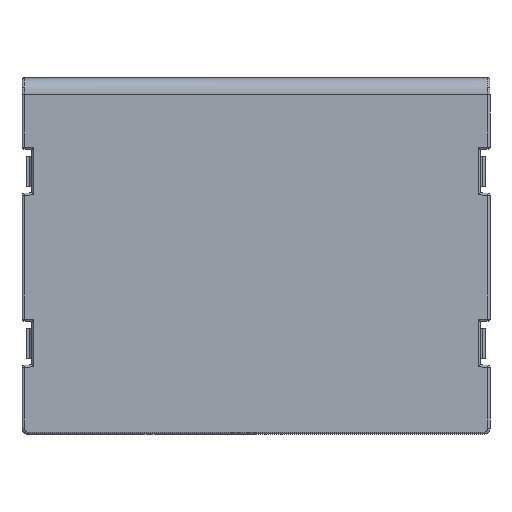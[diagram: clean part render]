
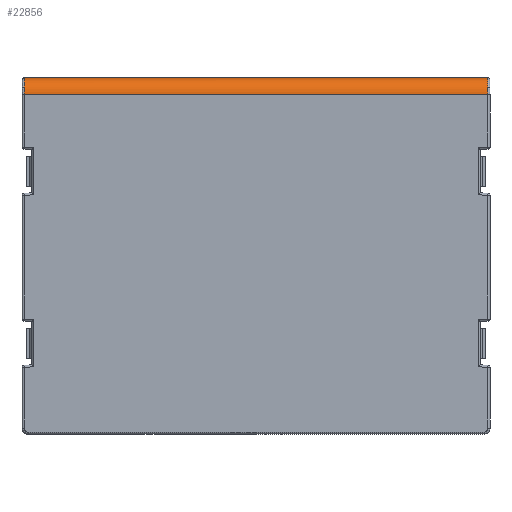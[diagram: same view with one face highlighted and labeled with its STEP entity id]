
A CAD part, front view. The second image highlights one B-rep face of the part: STEP entity #22856.
In plain terms, the highlighted cylindrical face has radius 2.5 mm (diameter 5 mm), a partial arc.
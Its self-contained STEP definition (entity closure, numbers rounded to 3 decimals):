
#38=DIRECTION('',(-1.,0.,0.));
#39=VECTOR('',#38,69.587);
#40=CARTESIAN_POINT('',(36.919,0.,-2.5));
#41=LINE('',#40,#39);
#7545=CARTESIAN_POINT('',(36.913,2.5,
0.));
#7546=CARTESIAN_POINT('',(36.913,2.437,
0.));
#7547=CARTESIAN_POINT('',(36.913,2.31,
-0.005));
#7548=CARTESIAN_POINT('',(36.914,2.127,
-0.026));
#7549=CARTESIAN_POINT('',(36.914,1.945,
-0.06));
#7550=CARTESIAN_POINT('',(36.914,1.766,
-0.108));
#7551=CARTESIAN_POINT('',(36.914,1.591,
-0.169));
#7552=CARTESIAN_POINT('',(36.915,1.421,
-0.242));
#7553=CARTESIAN_POINT('',(36.915,1.257,
-0.328));
#7554=CARTESIAN_POINT('',(36.915,1.099,
-0.426));
#7555=CARTESIAN_POINT('',(36.916,0.95,
-0.536));
#7556=CARTESIAN_POINT('',(36.916,0.809,
-0.656));
#7557=CARTESIAN_POINT('',(36.917,0.677,
-0.786));
#7558=CARTESIAN_POINT('',(36.918,0.555,
-0.926));
#7559=CARTESIAN_POINT('',(36.918,0.444,
-1.074));
#7560=CARTESIAN_POINT('',(36.919,0.344,
-1.23));
#7561=CARTESIAN_POINT('',(36.92,0.285,
-1.339));
#7562=CARTESIAN_POINT('',(36.92,0.258,
-1.394));
#7564=CARTESIAN_POINT('',(36.92,0.258,
-1.394));
#7565=CARTESIAN_POINT('',(36.92,0.234,
-1.442));
#7566=CARTESIAN_POINT('',(36.92,0.19,
-1.539));
#7567=CARTESIAN_POINT('',(36.919,0.134,
-1.688));
#7568=CARTESIAN_POINT('',(36.919,0.087,
-1.841));
#7569=CARTESIAN_POINT('',(36.919,0.05,
-1.995));
#7570=CARTESIAN_POINT('',(36.919,0.023,
-2.152));
#7571=CARTESIAN_POINT('',(36.919,0.004,
-2.32));
#7572=CARTESIAN_POINT('',(36.919,0.,
-2.439));
#7573=CARTESIAN_POINT('',(36.919,0.,-2.5));
#7575=CARTESIAN_POINT('',(-32.67,0.258,
-1.394));
#7576=CARTESIAN_POINT('',(-32.67,0.234,
-1.442));
#7577=CARTESIAN_POINT('',(-32.67,0.19,
-1.539));
#7578=CARTESIAN_POINT('',(-32.669,0.134,
-1.688));
#7579=CARTESIAN_POINT('',(-32.669,0.087,
-1.842));
#7580=CARTESIAN_POINT('',(-32.669,0.05,
-1.996));
#7581=CARTESIAN_POINT('',(-32.669,0.022,
-2.153));
#7582=CARTESIAN_POINT('',(-32.669,0.004,
-2.32));
#7583=CARTESIAN_POINT('',(-32.669,0.,
-2.439));
#7584=CARTESIAN_POINT('',(-32.669,0.,-2.5));
#7586=CARTESIAN_POINT('',(-32.67,0.258,
-1.394));
#7587=CARTESIAN_POINT('',(-32.67,0.285,
-1.339));
#7588=CARTESIAN_POINT('',(-32.669,0.344,
-1.231));
#7589=CARTESIAN_POINT('',(-32.668,0.443,
-1.075));
#7590=CARTESIAN_POINT('',(-32.668,0.554,
-0.927));
#7591=CARTESIAN_POINT('',(-32.667,0.675,
-0.788));
#7592=CARTESIAN_POINT('',(-32.667,0.807,
-0.658));
#7593=CARTESIAN_POINT('',(-32.666,0.947,
-0.538));
#7594=CARTESIAN_POINT('',(-32.665,1.096,
-0.428));
#7595=CARTESIAN_POINT('',(-32.665,1.253,
-0.33));
#7596=CARTESIAN_POINT('',(-32.665,1.417,
-0.244));
#7597=CARTESIAN_POINT('',(-32.664,1.586,
-0.171));
#7598=CARTESIAN_POINT('',(-32.664,1.761,
-0.109));
#7599=CARTESIAN_POINT('',(-32.664,1.939,
-0.061));
#7600=CARTESIAN_POINT('',(-32.664,2.12,
-0.027));
#7601=CARTESIAN_POINT('',(-32.663,2.307,
-0.005));
#7602=CARTESIAN_POINT('',(-32.663,2.435,
0.));
#7603=CARTESIAN_POINT('',(-32.663,2.5,
0.));
#7605=DIRECTION('',(1.,0.,0.));
#7606=VECTOR('',#7605,67.43);
#7607=CARTESIAN_POINT('',(-31.59,2.5,0.));
#7608=LINE('',#7607,#7606);
#7609=DIRECTION('',(-1.,0.,0.));
#7610=VECTOR('',#7609,1.073);
#7611=CARTESIAN_POINT('',(36.913,2.5,
0.));
#7612=LINE('',#7611,#7610);
#7613=DIRECTION('',(-1.,0.,0.));
#7614=VECTOR('',#7613,1.073);
#7615=CARTESIAN_POINT('',(-31.59,2.5,0.));
#7616=LINE('',#7615,#7614);
#12225=CARTESIAN_POINT('',(35.84,2.5,0.));
#12226=VERTEX_POINT('',#12225);
#12229=CARTESIAN_POINT('',(-31.59,2.5,0.));
#12230=VERTEX_POINT('',#12229);
#13097=CARTESIAN_POINT('',(36.913,2.5,
0.));
#13098=VERTEX_POINT('',#13097);
#13099=CARTESIAN_POINT('',(-32.663,2.5,
0.));
#13100=VERTEX_POINT('',#13099);
#13379=VERTEX_POINT('',#7575);
#13380=VERTEX_POINT('',#7584);
#13383=VERTEX_POINT('',#7562);
#13397=VERTEX_POINT('',#7573);
#22836=CARTESIAN_POINT('',(126.303,2.5,-2.5));
#22837=DIRECTION('',(-1.,0.,0.));
#22838=DIRECTION('',(0.,-1.,0.));
#22839=AXIS2_PLACEMENT_3D('',#22836,#22837,#22838);
#22840=CYLINDRICAL_SURFACE('',#22839,2.5);
#22842=ORIENTED_EDGE('',*,*,#22841,.F.);
#22843=ORIENTED_EDGE('',*,*,#22828,.T.);
#22844=ORIENTED_EDGE('',*,*,#22477,.T.);
#22845=ORIENTED_EDGE('',*,*,#13703,.T.);
#22847=ORIENTED_EDGE('',*,*,#22846,.F.);
#22849=ORIENTED_EDGE('',*,*,#22848,.T.);
#22851=ORIENTED_EDGE('',*,*,#22850,.F.);
#22853=ORIENTED_EDGE('',*,*,#22852,.T.);
#22854=EDGE_LOOP('',(#22842,#22843,#22844,#22845,#22847,#22849,#22851,#22853));
#22855=FACE_OUTER_BOUND('',#22854,.F.);
#22856=ADVANCED_FACE('',(#22855),#22840,.T.);
#7563=B_SPLINE_CURVE_WITH_KNOTS('',3,(#7545,#7546,#7547,#7548,#7549,#7550,#7551,
#7552,#7553,#7554,#7555,#7556,#7557,#7558,#7559,#7560,#7561,#7562),
.UNSPECIFIED.,.F.,.F.,(4,1,1,1,1,1,1,1,1,1,1,1,1,1,1,4),(0.,0.067,
0.133,0.2,0.267,0.333,0.4,
0.467,0.533,0.6,0.667,0.733,
0.8,0.867,0.933,1.),.UNSPECIFIED.);
#7574=B_SPLINE_CURVE_WITH_KNOTS('',3,(#7564,#7565,#7566,#7567,#7568,#7569,#7570,
#7571,#7572,#7573),.UNSPECIFIED.,.F.,.F.,(4,1,1,1,1,1,1,4),(0.,
0.143,0.286,0.429,0.571,
0.714,0.857,1.),.UNSPECIFIED.);
#7585=B_SPLINE_CURVE_WITH_KNOTS('',3,(#7575,#7576,#7577,#7578,#7579,#7580,#7581,
#7582,#7583,#7584),.UNSPECIFIED.,.F.,.F.,(4,1,1,1,1,1,1,4),(0.,
0.143,0.286,0.429,0.571,
0.714,0.857,1.),.UNSPECIFIED.);
#7604=B_SPLINE_CURVE_WITH_KNOTS('',3,(#7586,#7587,#7588,#7589,#7590,#7591,#7592,
#7593,#7594,#7595,#7596,#7597,#7598,#7599,#7600,#7601,#7602,#7603),
.UNSPECIFIED.,.F.,.F.,(4,1,1,1,1,1,1,1,1,1,1,1,1,1,1,4),(0.,0.067,
0.133,0.2,0.267,0.333,0.4,
0.467,0.533,0.6,0.667,0.733,
0.8,0.867,0.933,1.),.UNSPECIFIED.);
#13703=EDGE_CURVE('',#13397,#13380,#41,.T.);
#22477=EDGE_CURVE('',#13383,#13397,#7574,.T.);
#22828=EDGE_CURVE('',#13098,#13383,#7563,.T.);
#22841=EDGE_CURVE('',#13098,#12226,#7612,.T.);
#22846=EDGE_CURVE('',#13379,#13380,#7585,.T.);
#22848=EDGE_CURVE('',#13379,#13100,#7604,.T.);
#22850=EDGE_CURVE('',#12230,#13100,#7616,.T.);
#22852=EDGE_CURVE('',#12230,#12226,#7608,.T.);
